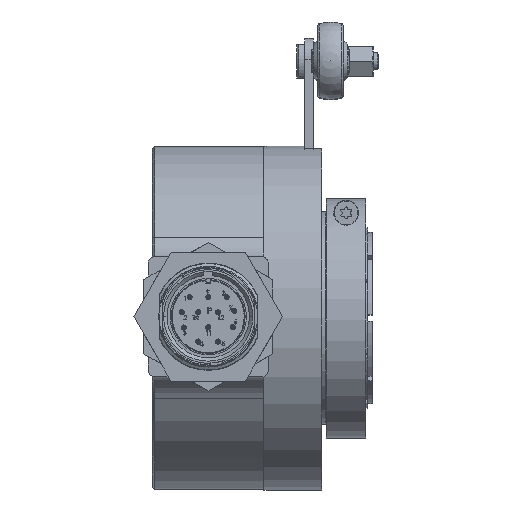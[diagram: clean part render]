
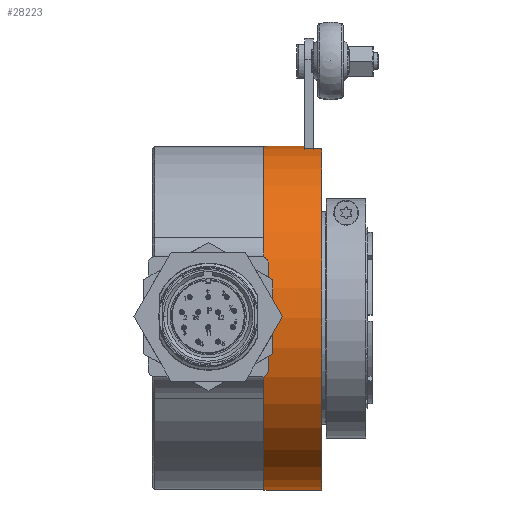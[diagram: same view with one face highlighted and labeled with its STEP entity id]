
A CAD part, top view. The second image highlights one B-rep face of the part: STEP entity #28223.
In plain terms, the highlighted cylindrical face has radius 40.075 mm (diameter 80.15 mm), a partial arc.
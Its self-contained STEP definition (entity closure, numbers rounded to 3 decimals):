
#122 = CARTESIAN_POINT ( 'NONE',  ( 9.5, 39.468, 6.95 ) ) ;
#444 = CARTESIAN_POINT ( 'NONE',  ( 13.5, 0., 0. ) ) ;
#2345 = DIRECTION ( 'NONE',  ( -1., 0., 0. ) ) ;
#3104 = LINE ( 'NONE', #27444, #28504 ) ;
#4504 = ORIENTED_EDGE ( 'NONE', *, *, #63407, .T. ) ;
#8349 = EDGE_CURVE ( 'NONE', #10930, #63910, #75023, .T. ) ;
#9600 = CARTESIAN_POINT ( 'NONE',  ( -12.775, 0., 0. ) ) ;
#9956 = ORIENTED_EDGE ( 'NONE', *, *, #46951, .T. ) ;
#10930 = VERTEX_POINT ( 'NONE', #73773 ) ;
#11299 = CARTESIAN_POINT ( 'NONE',  ( -12.775, 40.075, 0. ) ) ;
#11380 = CIRCLE ( 'NONE', #55192, 40.075 ) ;
#11671 = ORIENTED_EDGE ( 'NONE', *, *, #46426, .T. ) ;
#16044 = CARTESIAN_POINT ( 'NONE',  ( 13.5, -40.075, 0. ) ) ;
#16127 = ORIENTED_EDGE ( 'NONE', *, *, #41375, .F. ) ;
#16634 = CIRCLE ( 'NONE', #32928, 40.075 ) ;
#27050 = CARTESIAN_POINT ( 'NONE',  ( 9.5, 0., 0. ) ) ;
#27444 = CARTESIAN_POINT ( 'NONE',  ( -12.775, -40.075, 0. ) ) ;
#28223 = ADVANCED_FACE ( 'NONE', ( #76233 ), #46065, .T. ) ;
#28504 = VECTOR ( 'NONE', #67770, 1000. ) ;
#31607 = DIRECTION ( 'NONE',  ( -1., 0., 0. ) ) ;
#32928 = AXIS2_PLACEMENT_3D ( 'NONE', #27050, #2345, #50958 ) ;
#34080 = LINE ( 'NONE', #11299, #73915 ) ;
#34319 = DIRECTION ( 'NONE',  ( -1., 0., 0. ) ) ;
#34584 = VERTEX_POINT ( 'NONE', #122 ) ;
#34832 = VERTEX_POINT ( 'NONE', #58452 ) ;
#40463 = LINE ( 'NONE', #41231, #68303 ) ;
#41231 = CARTESIAN_POINT ( 'NONE',  ( -12.775, 39.468, 6.95 ) ) ;
#41375 = EDGE_CURVE ( 'NONE', #71133, #10930, #3104, .T. ) ;
#42398 = DIRECTION ( 'NONE',  ( -1., 0., 0. ) ) ;
#42493 = CARTESIAN_POINT ( 'NONE',  ( 9.5, 40.075, 0. ) ) ;
#46065 = CYLINDRICAL_SURFACE ( 'NONE', #46279, 40.075 ) ;
#46279 = AXIS2_PLACEMENT_3D ( 'NONE', #9600, #34319, #63272 ) ;
#46426 = EDGE_CURVE ( 'NONE', #47582, #63910, #34080, .T. ) ;
#46951 = EDGE_CURVE ( 'NONE', #71133, #34832, #11380, .T. ) ;
#47506 = DIRECTION ( 'NONE',  ( -1., 0., 0. ) ) ;
#47582 = VERTEX_POINT ( 'NONE', #42493 ) ;
#48840 = CARTESIAN_POINT ( 'NONE',  ( 0., 40.075, 0. ) ) ;
#50958 = DIRECTION ( 'NONE',  ( 0., 1., 0. ) ) ;
#53277 = EDGE_CURVE ( 'NONE', #34832, #34584, #40463, .T. ) ;
#55192 = AXIS2_PLACEMENT_3D ( 'NONE', #444, #42398, #60395 ) ;
#56453 = ORIENTED_EDGE ( 'NONE', *, *, #53277, .T. ) ;
#57742 = EDGE_LOOP ( 'NONE', ( #16127, #9956, #56453, #4504, #11671, #62338 ) ) ;
#58452 = CARTESIAN_POINT ( 'NONE',  ( 13.5, 39.468, 6.95 ) ) ;
#60395 = DIRECTION ( 'NONE',  ( 0., 1., 0. ) ) ;
#62338 = ORIENTED_EDGE ( 'NONE', *, *, #8349, .F. ) ;
#63272 = DIRECTION ( 'NONE',  ( 0., 1., 0. ) ) ;
#63407 = EDGE_CURVE ( 'NONE', #34584, #47582, #16634, .T. ) ;
#63910 = VERTEX_POINT ( 'NONE', #48840 ) ;
#66852 = DIRECTION ( 'NONE',  ( 0., 1., 0. ) ) ;
#67227 = CARTESIAN_POINT ( 'NONE',  ( 0., 0., 0. ) ) ;
#67770 = DIRECTION ( 'NONE',  ( -1., 0., 0. ) ) ;
#68303 = VECTOR ( 'NONE', #47506, 1000. ) ;
#71133 = VERTEX_POINT ( 'NONE', #16044 ) ;
#71275 = AXIS2_PLACEMENT_3D ( 'NONE', #67227, #31607, #66852 ) ;
#73773 = CARTESIAN_POINT ( 'NONE',  ( 0., -40.075, 0. ) ) ;
#73915 = VECTOR ( 'NONE', #76375, 1000. ) ;
#75023 = CIRCLE ( 'NONE', #71275, 40.075 ) ;
#76233 = FACE_OUTER_BOUND ( 'NONE', #57742, .T. ) ;
#76375 = DIRECTION ( 'NONE',  ( -1., 0., 0. ) ) ;
